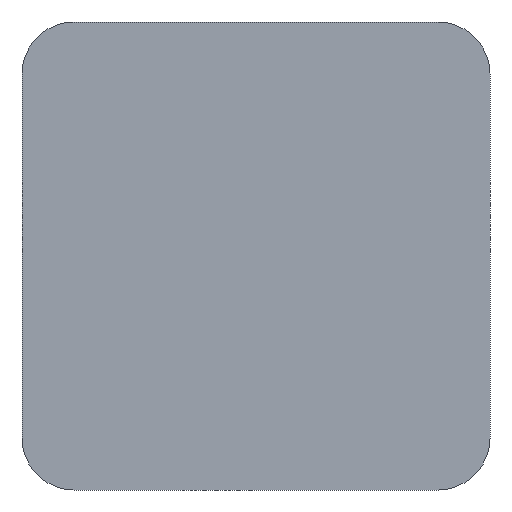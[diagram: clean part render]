
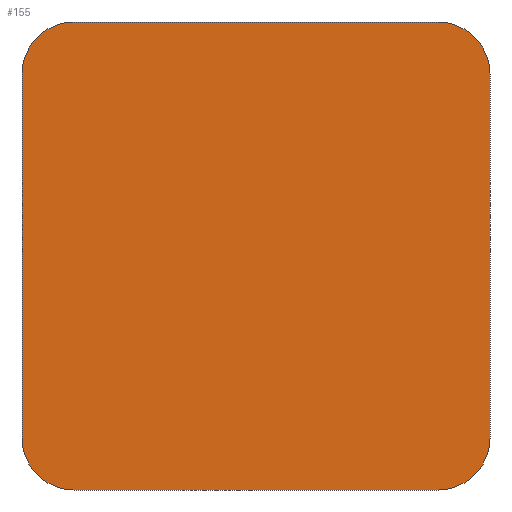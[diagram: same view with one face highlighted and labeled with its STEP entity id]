
A CAD part, front view. The second image highlights one B-rep face of the part: STEP entity #155.
In plain terms, the highlighted planar face has unit normal (0, -1, 0).
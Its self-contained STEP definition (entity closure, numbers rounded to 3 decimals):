
#39 = EDGE_CURVE('',#40,#42,#44,.T.);
#40 = VERTEX_POINT('',#41);
#41 = CARTESIAN_POINT('',(-31.5,-30.,-24.5));
#42 = VERTEX_POINT('',#43);
#43 = CARTESIAN_POINT('',(-31.5,-30.,24.5));
#44 = SURFACE_CURVE('',#45,(#49,#61),.PCURVE_S1.);
#45 = LINE('',#46,#47);
#46 = CARTESIAN_POINT('',(-31.5,-30.,-31.5));
#47 = VECTOR('',#48,1.);
#48 = DIRECTION('',(0.,0.,1.));
#49 = PCURVE('',#50,#55);
#50 = PLANE('',#51);
#51 = AXIS2_PLACEMENT_3D('',#52,#53,#54);
#52 = CARTESIAN_POINT('',(-31.5,-30.,-31.5));
#53 = DIRECTION('',(1.,0.,-0.));
#54 = DIRECTION('',(0.,0.,1.));
#55 = DEFINITIONAL_REPRESENTATION('',(#56),#60);
#56 = LINE('',#57,#58);
#57 = CARTESIAN_POINT('',(0.,0.));
#58 = VECTOR('',#59,1.);
#59 = DIRECTION('',(1.,0.));
#60 = ( GEOMETRIC_REPRESENTATION_CONTEXT(2) 
PARAMETRIC_REPRESENTATION_CONTEXT() REPRESENTATION_CONTEXT('2D SPACE',''
  ) );
#61 = PCURVE('',#62,#67);
#62 = PLANE('',#63);
#63 = AXIS2_PLACEMENT_3D('',#64,#65,#66);
#64 = CARTESIAN_POINT('',(-31.5,-30.,-31.5));
#65 = DIRECTION('',(-0.,1.,0.));
#66 = DIRECTION('',(0.,0.,1.));
#67 = DEFINITIONAL_REPRESENTATION('',(#68),#72);
#68 = LINE('',#69,#70);
#69 = CARTESIAN_POINT('',(0.,0.));
#70 = VECTOR('',#71,1.);
#71 = DIRECTION('',(1.,0.));
#72 = ( GEOMETRIC_REPRESENTATION_CONTEXT(2) 
PARAMETRIC_REPRESENTATION_CONTEXT() REPRESENTATION_CONTEXT('2D SPACE',''
  ) );
#90 = CYLINDRICAL_SURFACE('',#91,7.);
#91 = AXIS2_PLACEMENT_3D('',#92,#93,#94);
#92 = CARTESIAN_POINT('',(-24.5,-30.,-24.5));
#93 = DIRECTION('',(-0.,1.,0.));
#94 = DIRECTION('',(-1.,-0.,0.));
#144 = CYLINDRICAL_SURFACE('',#145,7.);
#145 = AXIS2_PLACEMENT_3D('',#146,#147,#148);
#146 = CARTESIAN_POINT('',(-24.5,-30.,24.5));
#147 = DIRECTION('',(-0.,1.,0.));
#148 = DIRECTION('',(-1.,-0.,0.));
#155 = ADVANCED_FACE('',(#156),#62,.F.);
#156 = FACE_BOUND('',#157,.F.);
#157 = EDGE_LOOP('',(#158,#188,#214,#215,#239,#267,#300,#328));
#158 = ORIENTED_EDGE('',*,*,#159,.F.);
#159 = EDGE_CURVE('',#160,#162,#164,.T.);
#160 = VERTEX_POINT('',#161);
#161 = CARTESIAN_POINT('',(-24.5,-30.,-31.5));
#162 = VERTEX_POINT('',#163);
#163 = CARTESIAN_POINT('',(24.5,-30.,-31.5));
#164 = SURFACE_CURVE('',#165,(#169,#176),.PCURVE_S1.);
#165 = LINE('',#166,#167);
#166 = CARTESIAN_POINT('',(-31.5,-30.,-31.5));
#167 = VECTOR('',#168,1.);
#168 = DIRECTION('',(1.,0.,-0.));
#169 = PCURVE('',#62,#170);
#170 = DEFINITIONAL_REPRESENTATION('',(#171),#175);
#171 = LINE('',#172,#173);
#172 = CARTESIAN_POINT('',(0.,0.));
#173 = VECTOR('',#174,1.);
#174 = DIRECTION('',(0.,1.));
#175 = ( GEOMETRIC_REPRESENTATION_CONTEXT(2) 
PARAMETRIC_REPRESENTATION_CONTEXT() REPRESENTATION_CONTEXT('2D SPACE',''
  ) );
#176 = PCURVE('',#177,#182);
#177 = PLANE('',#178);
#178 = AXIS2_PLACEMENT_3D('',#179,#180,#181);
#179 = CARTESIAN_POINT('',(-31.5,-30.,-31.5));
#180 = DIRECTION('',(0.,0.,1.));
#181 = DIRECTION('',(1.,0.,-0.));
#182 = DEFINITIONAL_REPRESENTATION('',(#183),#187);
#183 = LINE('',#184,#185);
#184 = CARTESIAN_POINT('',(0.,0.));
#185 = VECTOR('',#186,1.);
#186 = DIRECTION('',(1.,0.));
#187 = ( GEOMETRIC_REPRESENTATION_CONTEXT(2) 
PARAMETRIC_REPRESENTATION_CONTEXT() REPRESENTATION_CONTEXT('2D SPACE',''
  ) );
#188 = ORIENTED_EDGE('',*,*,#189,.F.);
#189 = EDGE_CURVE('',#40,#160,#190,.T.);
#190 = SURFACE_CURVE('',#191,(#196,#207),.PCURVE_S1.);
#191 = CIRCLE('',#192,7.);
#192 = AXIS2_PLACEMENT_3D('',#193,#194,#195);
#193 = CARTESIAN_POINT('',(-24.5,-30.,-24.5));
#194 = DIRECTION('',(0.,-1.,0.));
#195 = DIRECTION('',(0.,0.,1.));
#196 = PCURVE('',#62,#197);
#197 = DEFINITIONAL_REPRESENTATION('',(#198),#206);
#198 = ( BOUNDED_CURVE() B_SPLINE_CURVE(2,(#199,#200,#201,#202,#203,#204
,#205),.UNSPECIFIED.,.T.,.F.) B_SPLINE_CURVE_WITH_KNOTS((1,2,2,2,2,1),(
    -2.094,0.,2.094,4.189,6.283,
8.378),.UNSPECIFIED.) CURVE() GEOMETRIC_REPRESENTATION_ITEM() 
RATIONAL_B_SPLINE_CURVE((1.,0.5,1.,0.5,1.,0.5,1.)) REPRESENTATION_ITEM(
  '') );
#199 = CARTESIAN_POINT('',(14.,7.));
#200 = CARTESIAN_POINT('',(14.,-5.124));
#201 = CARTESIAN_POINT('',(3.5,0.938));
#202 = CARTESIAN_POINT('',(-7.,7.));
#203 = CARTESIAN_POINT('',(3.5,13.062));
#204 = CARTESIAN_POINT('',(14.,19.124));
#205 = CARTESIAN_POINT('',(14.,7.));
#206 = ( GEOMETRIC_REPRESENTATION_CONTEXT(2) 
PARAMETRIC_REPRESENTATION_CONTEXT() REPRESENTATION_CONTEXT('2D SPACE',''
  ) );
#207 = PCURVE('',#90,#208);
#208 = DEFINITIONAL_REPRESENTATION('',(#209),#213);
#209 = LINE('',#210,#211);
#210 = CARTESIAN_POINT('',(1.571,-0.));
#211 = VECTOR('',#212,1.);
#212 = DIRECTION('',(-1.,0.));
#213 = ( GEOMETRIC_REPRESENTATION_CONTEXT(2) 
PARAMETRIC_REPRESENTATION_CONTEXT() REPRESENTATION_CONTEXT('2D SPACE',''
  ) );
#214 = ORIENTED_EDGE('',*,*,#39,.T.);
#215 = ORIENTED_EDGE('',*,*,#216,.T.);
#216 = EDGE_CURVE('',#42,#217,#219,.T.);
#217 = VERTEX_POINT('',#218);
#218 = CARTESIAN_POINT('',(-24.5,-30.,31.5));
#219 = SURFACE_CURVE('',#220,(#225,#232),.PCURVE_S1.);
#220 = CIRCLE('',#221,7.);
#221 = AXIS2_PLACEMENT_3D('',#222,#223,#224);
#222 = CARTESIAN_POINT('',(-24.5,-30.,24.5));
#223 = DIRECTION('',(-0.,1.,0.));
#224 = DIRECTION('',(0.,0.,1.));
#225 = PCURVE('',#62,#226);
#226 = DEFINITIONAL_REPRESENTATION('',(#227),#231);
#227 = CIRCLE('',#228,7.);
#228 = AXIS2_PLACEMENT_2D('',#229,#230);
#229 = CARTESIAN_POINT('',(56.,7.));
#230 = DIRECTION('',(1.,0.));
#231 = ( GEOMETRIC_REPRESENTATION_CONTEXT(2) 
PARAMETRIC_REPRESENTATION_CONTEXT() REPRESENTATION_CONTEXT('2D SPACE',''
  ) );
#232 = PCURVE('',#144,#233);
#233 = DEFINITIONAL_REPRESENTATION('',(#234),#238);
#234 = LINE('',#235,#236);
#235 = CARTESIAN_POINT('',(-4.712,0.));
#236 = VECTOR('',#237,1.);
#237 = DIRECTION('',(1.,0.));
#238 = ( GEOMETRIC_REPRESENTATION_CONTEXT(2) 
PARAMETRIC_REPRESENTATION_CONTEXT() REPRESENTATION_CONTEXT('2D SPACE',''
  ) );
#239 = ORIENTED_EDGE('',*,*,#240,.T.);
#240 = EDGE_CURVE('',#217,#241,#243,.T.);
#241 = VERTEX_POINT('',#242);
#242 = CARTESIAN_POINT('',(24.5,-30.,31.5));
#243 = SURFACE_CURVE('',#244,(#248,#255),.PCURVE_S1.);
#244 = LINE('',#245,#246);
#245 = CARTESIAN_POINT('',(-31.5,-30.,31.5));
#246 = VECTOR('',#247,1.);
#247 = DIRECTION('',(1.,0.,-0.));
#248 = PCURVE('',#62,#249);
#249 = DEFINITIONAL_REPRESENTATION('',(#250),#254);
#250 = LINE('',#251,#252);
#251 = CARTESIAN_POINT('',(63.,0.));
#252 = VECTOR('',#253,1.);
#253 = DIRECTION('',(0.,1.));
#254 = ( GEOMETRIC_REPRESENTATION_CONTEXT(2) 
PARAMETRIC_REPRESENTATION_CONTEXT() REPRESENTATION_CONTEXT('2D SPACE',''
  ) );
#255 = PCURVE('',#256,#261);
#256 = PLANE('',#257);
#257 = AXIS2_PLACEMENT_3D('',#258,#259,#260);
#258 = CARTESIAN_POINT('',(-31.5,-30.,31.5));
#259 = DIRECTION('',(0.,0.,1.));
#260 = DIRECTION('',(1.,0.,-0.));
#261 = DEFINITIONAL_REPRESENTATION('',(#262),#266);
#262 = LINE('',#263,#264);
#263 = CARTESIAN_POINT('',(0.,0.));
#264 = VECTOR('',#265,1.);
#265 = DIRECTION('',(1.,0.));
#266 = ( GEOMETRIC_REPRESENTATION_CONTEXT(2) 
PARAMETRIC_REPRESENTATION_CONTEXT() REPRESENTATION_CONTEXT('2D SPACE',''
  ) );
#267 = ORIENTED_EDGE('',*,*,#268,.F.);
#268 = EDGE_CURVE('',#269,#241,#271,.T.);
#269 = VERTEX_POINT('',#270);
#270 = CARTESIAN_POINT('',(31.5,-30.,24.5));
#271 = SURFACE_CURVE('',#272,(#277,#288),.PCURVE_S1.);
#272 = CIRCLE('',#273,7.);
#273 = AXIS2_PLACEMENT_3D('',#274,#275,#276);
#274 = CARTESIAN_POINT('',(24.5,-30.,24.5));
#275 = DIRECTION('',(0.,-1.,0.));
#276 = DIRECTION('',(0.,0.,1.));
#277 = PCURVE('',#62,#278);
#278 = DEFINITIONAL_REPRESENTATION('',(#279),#287);
#279 = ( BOUNDED_CURVE() B_SPLINE_CURVE(2,(#280,#281,#282,#283,#284,#285
,#286),.UNSPECIFIED.,.T.,.F.) B_SPLINE_CURVE_WITH_KNOTS((1,2,2,2,2,1),(
    -2.094,0.,2.094,4.189,6.283,
8.378),.UNSPECIFIED.) CURVE() GEOMETRIC_REPRESENTATION_ITEM() 
RATIONAL_B_SPLINE_CURVE((1.,0.5,1.,0.5,1.,0.5,1.)) REPRESENTATION_ITEM(
  '') );
#280 = CARTESIAN_POINT('',(63.,56.));
#281 = CARTESIAN_POINT('',(63.,43.876));
#282 = CARTESIAN_POINT('',(52.5,49.938));
#283 = CARTESIAN_POINT('',(42.,56.));
#284 = CARTESIAN_POINT('',(52.5,62.062));
#285 = CARTESIAN_POINT('',(63.,68.124));
#286 = CARTESIAN_POINT('',(63.,56.));
#287 = ( GEOMETRIC_REPRESENTATION_CONTEXT(2) 
PARAMETRIC_REPRESENTATION_CONTEXT() REPRESENTATION_CONTEXT('2D SPACE',''
  ) );
#288 = PCURVE('',#289,#294);
#289 = CYLINDRICAL_SURFACE('',#290,7.);
#290 = AXIS2_PLACEMENT_3D('',#291,#292,#293);
#291 = CARTESIAN_POINT('',(24.5,-30.,24.5));
#292 = DIRECTION('',(-0.,1.,0.));
#293 = DIRECTION('',(1.,0.,-0.));
#294 = DEFINITIONAL_REPRESENTATION('',(#295),#299);
#295 = LINE('',#296,#297);
#296 = CARTESIAN_POINT('',(4.712,-0.));
#297 = VECTOR('',#298,1.);
#298 = DIRECTION('',(-1.,0.));
#299 = ( GEOMETRIC_REPRESENTATION_CONTEXT(2) 
PARAMETRIC_REPRESENTATION_CONTEXT() REPRESENTATION_CONTEXT('2D SPACE',''
  ) );
#300 = ORIENTED_EDGE('',*,*,#301,.F.);
#301 = EDGE_CURVE('',#302,#269,#304,.T.);
#302 = VERTEX_POINT('',#303);
#303 = CARTESIAN_POINT('',(31.5,-30.,-24.5));
#304 = SURFACE_CURVE('',#305,(#309,#316),.PCURVE_S1.);
#305 = LINE('',#306,#307);
#306 = CARTESIAN_POINT('',(31.5,-30.,-31.5));
#307 = VECTOR('',#308,1.);
#308 = DIRECTION('',(0.,0.,1.));
#309 = PCURVE('',#62,#310);
#310 = DEFINITIONAL_REPRESENTATION('',(#311),#315);
#311 = LINE('',#312,#313);
#312 = CARTESIAN_POINT('',(0.,63.));
#313 = VECTOR('',#314,1.);
#314 = DIRECTION('',(1.,0.));
#315 = ( GEOMETRIC_REPRESENTATION_CONTEXT(2) 
PARAMETRIC_REPRESENTATION_CONTEXT() REPRESENTATION_CONTEXT('2D SPACE',''
  ) );
#316 = PCURVE('',#317,#322);
#317 = PLANE('',#318);
#318 = AXIS2_PLACEMENT_3D('',#319,#320,#321);
#319 = CARTESIAN_POINT('',(31.5,-30.,-31.5));
#320 = DIRECTION('',(1.,0.,-0.));
#321 = DIRECTION('',(0.,0.,1.));
#322 = DEFINITIONAL_REPRESENTATION('',(#323),#327);
#323 = LINE('',#324,#325);
#324 = CARTESIAN_POINT('',(0.,0.));
#325 = VECTOR('',#326,1.);
#326 = DIRECTION('',(1.,0.));
#327 = ( GEOMETRIC_REPRESENTATION_CONTEXT(2) 
PARAMETRIC_REPRESENTATION_CONTEXT() REPRESENTATION_CONTEXT('2D SPACE',''
  ) );
#328 = ORIENTED_EDGE('',*,*,#329,.T.);
#329 = EDGE_CURVE('',#302,#162,#330,.T.);
#330 = SURFACE_CURVE('',#331,(#336,#343),.PCURVE_S1.);
#331 = CIRCLE('',#332,7.);
#332 = AXIS2_PLACEMENT_3D('',#333,#334,#335);
#333 = CARTESIAN_POINT('',(24.5,-30.,-24.5));
#334 = DIRECTION('',(-0.,1.,0.));
#335 = DIRECTION('',(0.,0.,1.));
#336 = PCURVE('',#62,#337);
#337 = DEFINITIONAL_REPRESENTATION('',(#338),#342);
#338 = CIRCLE('',#339,7.);
#339 = AXIS2_PLACEMENT_2D('',#340,#341);
#340 = CARTESIAN_POINT('',(7.,56.));
#341 = DIRECTION('',(1.,0.));
#342 = ( GEOMETRIC_REPRESENTATION_CONTEXT(2) 
PARAMETRIC_REPRESENTATION_CONTEXT() REPRESENTATION_CONTEXT('2D SPACE',''
  ) );
#343 = PCURVE('',#344,#349);
#344 = CYLINDRICAL_SURFACE('',#345,7.);
#345 = AXIS2_PLACEMENT_3D('',#346,#347,#348);
#346 = CARTESIAN_POINT('',(24.5,-30.,-24.5));
#347 = DIRECTION('',(-0.,1.,0.));
#348 = DIRECTION('',(1.,0.,-0.));
#349 = DEFINITIONAL_REPRESENTATION('',(#350),#354);
#350 = LINE('',#351,#352);
#351 = CARTESIAN_POINT('',(-1.571,0.));
#352 = VECTOR('',#353,1.);
#353 = DIRECTION('',(1.,0.));
#354 = ( GEOMETRIC_REPRESENTATION_CONTEXT(2) 
PARAMETRIC_REPRESENTATION_CONTEXT() REPRESENTATION_CONTEXT('2D SPACE',''
  ) );
